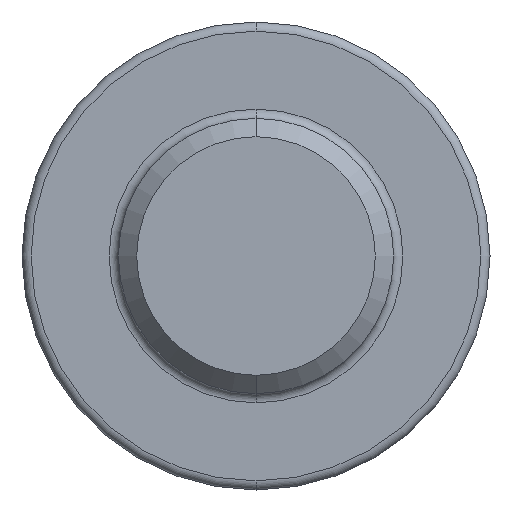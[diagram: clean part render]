
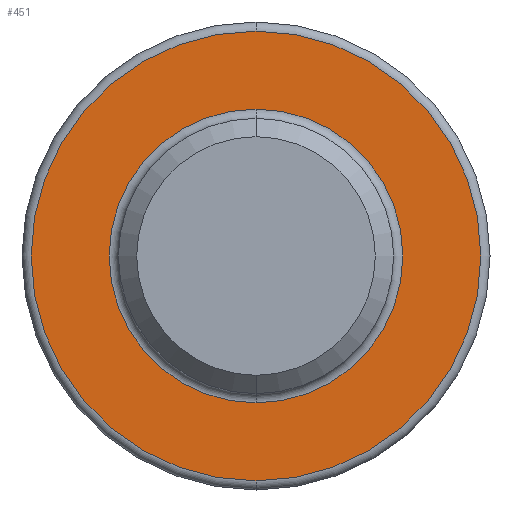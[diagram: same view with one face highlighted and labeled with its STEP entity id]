
A CAD part, front view. The second image highlights one B-rep face of the part: STEP entity #451.
In plain terms, the highlighted planar face has unit normal (0, -1, 0).
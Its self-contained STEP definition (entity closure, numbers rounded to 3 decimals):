
#27 = AXIS2_PLACEMENT_3D ( 'NONE', #316, #807, #558 ) ;
#63 = CARTESIAN_POINT ( 'NONE',  ( 0., -3.2, -3.2 ) ) ;
#69 = CARTESIAN_POINT ( 'NONE',  ( 3., -3.2, 0. ) ) ;
#106 = AXIS2_PLACEMENT_3D ( 'NONE', #786, #177, #728 ) ;
#129 = ORIENTED_EDGE ( 'NONE', *, *, #157, .T. ) ;
#132 = AXIS2_PLACEMENT_3D ( 'NONE', #69, #472, #414 ) ;
#157 = EDGE_CURVE ( 'NONE', #298, #644, #676, .T. ) ;
#159 = EDGE_LOOP ( 'NONE', ( #731, #129 ) ) ;
#166 = DIRECTION ( 'NONE',  ( 0., 0., 1. ) ) ;
#177 = DIRECTION ( 'NONE',  ( 0., 1., 0. ) ) ;
#188 = ORIENTED_EDGE ( 'NONE', *, *, #841, .T. ) ;
#196 = FACE_BOUND ( 'NONE', #456, .T. ) ;
#199 = AXIS2_PLACEMENT_3D ( 'NONE', #297, #220, #166 ) ;
#220 = DIRECTION ( 'NONE',  ( 0., -1., 0. ) ) ;
#256 = AXIS2_PLACEMENT_3D ( 'NONE', #396, #654, #466 ) ;
#297 = CARTESIAN_POINT ( 'NONE',  ( 0., -3.2, 0. ) ) ;
#298 = VERTEX_POINT ( 'NONE', #391 ) ;
#302 = CIRCLE ( 'NONE', #27, 3.2 ) ;
#316 = CARTESIAN_POINT ( 'NONE',  ( 0., -3.2, 0. ) ) ;
#331 = CIRCLE ( 'NONE', #256, 4.9 ) ;
#391 = CARTESIAN_POINT ( 'NONE',  ( 0., -3.2, -4.9 ) ) ;
#396 = CARTESIAN_POINT ( 'NONE',  ( 0., -3.2, 0. ) ) ;
#414 = DIRECTION ( 'NONE',  ( 0., 0., 1. ) ) ;
#451 = ADVANCED_FACE ( 'NONE', ( #196, #730 ), #610, .F. ) ;
#456 = EDGE_LOOP ( 'NONE', ( #469, #188 ) ) ;
#466 = DIRECTION ( 'NONE',  ( 0., 0., 1. ) ) ;
#469 = ORIENTED_EDGE ( 'NONE', *, *, #742, .T. ) ;
#472 = DIRECTION ( 'NONE',  ( 0., 1., 0. ) ) ;
#494 = CIRCLE ( 'NONE', #106, 3.2 ) ;
#558 = DIRECTION ( 'NONE',  ( 0., 0., 1. ) ) ;
#610 = PLANE ( 'NONE',  #132 ) ;
#634 = CARTESIAN_POINT ( 'NONE',  ( 0., -3.2, 4.9 ) ) ;
#644 = VERTEX_POINT ( 'NONE', #634 ) ;
#654 = DIRECTION ( 'NONE',  ( 0., -1., 0. ) ) ;
#657 = CARTESIAN_POINT ( 'NONE',  ( 0., -3.2, 3.2 ) ) ;
#676 = CIRCLE ( 'NONE', #199, 4.9 ) ;
#706 = VERTEX_POINT ( 'NONE', #63 ) ;
#728 = DIRECTION ( 'NONE',  ( 0., 0., 1. ) ) ;
#730 = FACE_OUTER_BOUND ( 'NONE', #159, .T. ) ;
#731 = ORIENTED_EDGE ( 'NONE', *, *, #817, .T. ) ;
#742 = EDGE_CURVE ( 'NONE', #746, #706, #494, .T. ) ;
#746 = VERTEX_POINT ( 'NONE', #657 ) ;
#786 = CARTESIAN_POINT ( 'NONE',  ( 0., -3.2, 0. ) ) ;
#807 = DIRECTION ( 'NONE',  ( 0., 1., 0. ) ) ;
#817 = EDGE_CURVE ( 'NONE', #644, #298, #331, .T. ) ;
#841 = EDGE_CURVE ( 'NONE', #706, #746, #302, .T. ) ;
